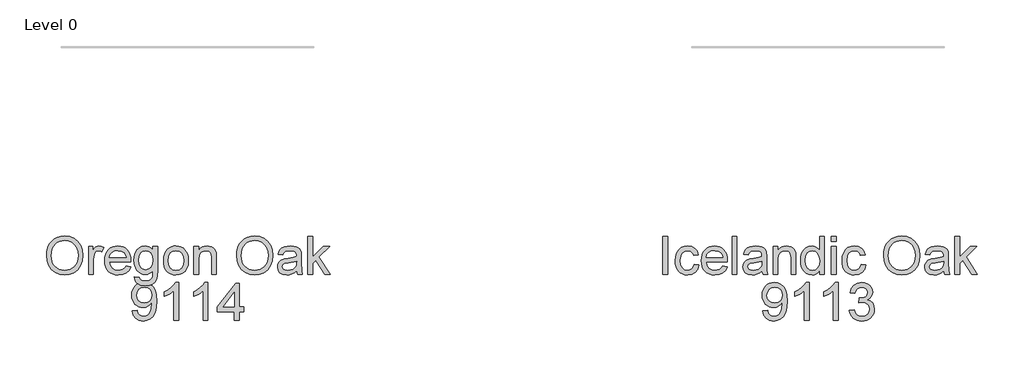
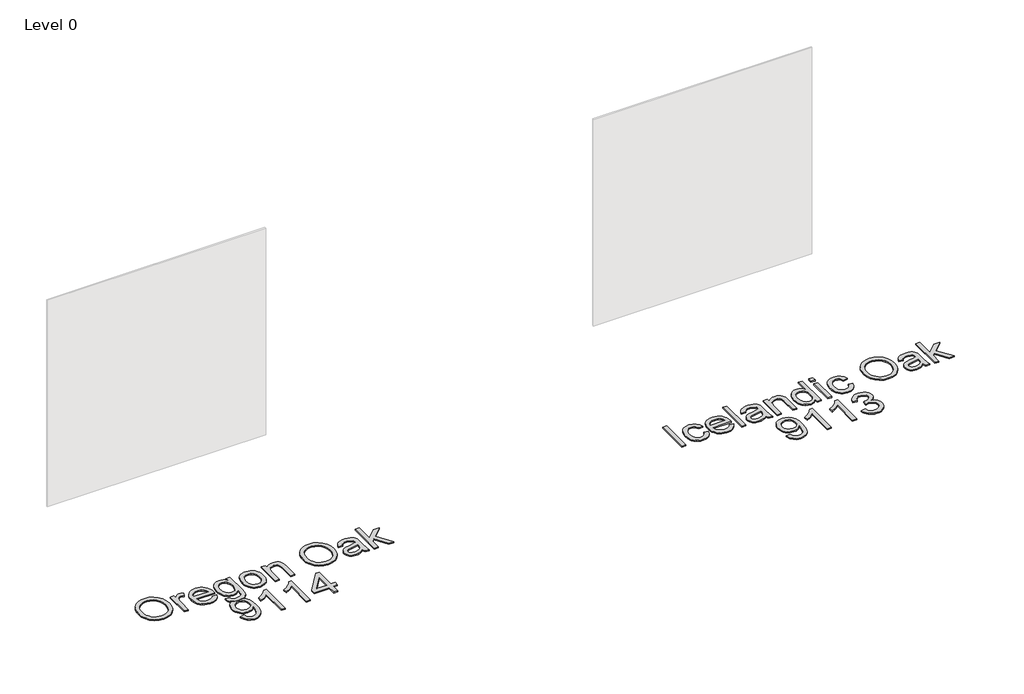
# One storey, part 6 of 10: 2 proxies.
"""IFC4 building model written with IfcOpenShell, lengths in millimetres."""

from ifc_helpers import new_model, si_unit, origin, origin_with_axes, place, context, project, spatial, polyline, outline, extrude, element, save

model = new_model("IFC4")

# Units and contexts
model_context = context("Model", 3, world=origin())
ifc_project = project(units=[si_unit("LENGTHUNIT", "METRE", prefix="MILLI")], contexts=[model_context])

# Site, building, storey
site = spatial("IfcSite", under=ifc_project)
building = spatial("IfcBuilding", under=site)
storey = spatial("IfcBuildingStorey", under=building, Name="Level 0", Elevation=0.0)

# Proxies
placement = place(None, origin())
element("IfcBuildingElementProxy", 1, Name="300mm Arial", ObjectType="300mm Arial", at=placement, inside=storey, context=model_context, shape_type="SweptSolid", body=[
    extrude(outline(polyline([(-569.0193216, -16856.1491543), (-566.508527, -16820.8002931), (-558.9761432, -16789.5073309), (-546.4221701, -16762.2702677), (-528.8466078, -16739.0891034), (-507.3025184, -16720.5800406), (-482.8429643, -16707.3592814), (-455.4679453, -16699.4268258), (-425.1774615, -16696.782674), (-385.6485411, -16701.7490809), (-350.2031109, -16716.6483017), (-320.7725513, -16740.4318727), (-299.2882428, -16772.0513302), (-286.1548556, -16809.9799639), (-281.7770598, -16852.6910636), (-286.3847818, -16895.9723803), (-300.2079478, -16934.4344429), (-322.4832026, -16966.1090827), (-352.4471911, -16989.028131), (-387.5891187, -17002.9340704), (-425.3981907, -17007.5693835), (-465.5341164, -17002.4466267), (-501.1818817, -16987.0783564), (-530.5388649, -16962.853327), (-551.8024443, -16931.1602931), (-564.7151023, -16894.6939903), (-569.0193216, -16856.1491543)]), holes=[polyline([(-531.3482053, -16856.5170363), (-529.4651094, -16881.4916252), (-523.8158215, -16903.661114), (-514.4003417, -16923.0255025), (-501.2186699, -16939.5847908), (-485.1951098, -16952.8469367), (-467.2539647, -16962.3198981), (-447.3952348, -16968.0036749), (-425.6189199, -16969.8982672), (-403.4701246, -16967.9852808), (-383.3768698, -16962.2463217), (-365.3391558, -16952.6813898), (-349.3569823, -16939.2904852), (-336.2718796, -16922.381709), (-326.9253777, -16902.2631624), (-321.3174765, -16878.9348454), (-319.4481761, -16852.396758), (-322.6487495, -16819.0482551), (-332.2504695, -16790.2247008), (-348.005016, -16766.6526619), (-369.6640685, -16749.0587055), (-395.7928872, -16738.1050191), (-424.9567323, -16734.4537903), (-445.9765898, -16736.2127261), (-465.4789341, -16741.4895335), (-483.4637651, -16750.2842124), (-499.931083, -16762.5967629), (-513.676074, -16779.0203948), (-523.4939247, -16800.1483176), (-529.3846352, -16825.9805314), (-531.3482053, -16856.5170363)])]), origin_with_axes(), (0.0, 0.0, 1.0), 10.0),
    extrude(outline(polyline([(-234.6881644, -17002.860494), (-234.6881644, -16781.5426857), (-201.7259377, -16781.5426857), (-201.7259377, -16814.2841833), (-189.5490436, -16795.3014723), (-178.3286428, -16784.1178596), (-167.0714537, -16778.654812), (-154.7841951, -16776.8337961), (-136.0222133, -16779.7400639), (-116.965926, -16788.4588672), (-129.5474902, -16822.2304343), (-142.791242, -16816.4362929), (-156.0349939, -16814.5049125), (-167.2829859, -16816.3627165), (-177.3353614, -16821.9361288), (-185.4563564, -16830.8020848), (-190.910207, -16842.5375205), (-195.4903378, -16863.5803706), (-197.0170481, -16886.5362071), (-197.0170481, -17002.860494), (-234.6881644, -17002.860494)])), origin_with_axes(), (0.0, 0.0, 1.0), 10.0),
    extrude(outline(polyline([(61.5304181, -16936.9360404), (98.4657704, -16941.64493), (85.1576392, -16969.4752029), (63.9216511, -16990.2789297), (35.2360525, -17003.2467701), (-0.4209099, -17007.5693835), (-23.7952122, -17005.7046817), (-44.6219316, -17000.1105761), (-62.9010683, -16990.7870668), (-78.6326221, -16977.7341537), (-91.2831642, -16961.3151204), (-100.3192657, -16941.8932503), (-105.7409266, -16919.4685435), (-107.5481469, -16894.0409998), (-105.7225325, -16867.7512327), (-100.2456893, -16844.5792656), (-91.1176173, -16824.5250983), (-78.3383165, -16807.5887309), (-62.6481494, -16794.133447), (-44.7874785, -16784.5225298), (-24.7563039, -16778.7559796), (-2.5546255, -16776.8337961), (18.9319823, -16778.751381), (38.3630494, -16784.5041357), (55.7385759, -16794.0920602), (71.0585618, -16807.5151545), (83.5642503, -16824.4147337), (92.496885, -16844.4321128), (97.8564658, -16867.5672917), (99.6429928, -16893.8202706), (99.4222636, -16903.9738137), (-69.8770306, -16903.9738137), (-63.3563222, -16932.1719686), (-48.2087811, -16952.902119), (-26.3473935, -16965.6492302), (0.3148541, -16969.8982672), (20.3644228, -16967.9300985), (37.2502064, -16962.0255925), (50.9722048, -16951.8168672), (61.5304181, -16936.9360404)]), holes=[polyline([(-69.8770306, -16866.3026974), (61.9718765, -16866.3026974), (56.8767108, -16846.4002814), (46.8887147, -16832.1632482), (24.9261596, -16818.9194964), (-2.7017783, -16814.5049125), (-28.094833, -16818.0273826), (-49.0916979, -16828.5947929), (-63.687416, -16845.0667092), (-69.8770306, -16866.3026974)])]), origin_with_axes(), (0.0, 0.0, 1.0), 10.0),
    extrude(outline(polyline([(127.89633, -17021.6960521), (165.5674463, -17026.4049417), (169.7245129, -17038.1771655), (177.7811286, -17046.2705694), (193.6184485, -17052.5613515), (214.3485989, -17054.6582789), (236.4583068, -17052.28544), (252.902632, -17045.1669234), (264.3069738, -17033.7625816), (271.2967317, -17018.532267), (273.8719057, -16974.6071568), (261.3363267, -16986.9679918), (247.3476139, -16995.7971597), (231.9057671, -17001.0946604), (215.0107865, -17002.860494), (194.3565117, -17000.8049533), (176.1716448, -16994.6383314), (160.4561859, -16984.3606281), (147.2101348, -16969.9718436), (136.700206, -16952.708981), (129.1931141, -16933.8090435), (124.6888589, -16913.2720311), (123.1874405, -16891.0979438), (125.8821761, -16860.6832999), (133.9663829, -16832.7150712), (147.1549525, -16809.0142737), (165.1627761, -16791.4019232), (187.3736516, -16780.4758279), (213.1713765, -16776.8337961), (230.7883255, -16778.8939353), (246.7773968, -16785.0743528), (261.1385901, -16795.3750487), (273.8719057, -16809.7960229), (273.8719057, -16781.5426857), (311.543022, -16781.5426857), (311.543022, -16972.620594), (308.967848, -17016.7388422), (301.2423261, -17045.7923228), (287.934195, -17065.0601423), (268.6111932, -17079.8214074), (243.696385, -17089.2023982), (213.6128349, -17092.3293952), (178.5628778, -17087.9240083), (150.9625311, -17074.7078476), (140.5675655, -17064.7865301), (133.2582101, -17052.644125), (129.0344649, -17038.2806323), (127.89633, -17021.6960521)]), holes=[polyline([(160.8585568, -16888.5227699), (164.8776676, -16923.0760863), (176.935, -16946.8320661), (195.0623853, -16960.6000498), (217.2916548, -16965.1893777), (239.3553775, -16960.6276409), (257.5747333, -16946.9424307), (269.7976126, -16923.4899535), (273.8719057, -16889.6264159), (269.678051, -16856.9676917), (257.0964867, -16833.4508352), (238.6104165, -16819.2413931), (216.7030437, -16814.5049125), (195.191144, -16819.1678167), (177.1557292, -16833.1565296), (164.9328499, -16856.3238983), (160.8585568, -16888.5227699)])]), origin_with_axes(), (0.0, 0.0, 1.0), 10.0),
    extrude(outline(polyline([(358.6319174, -16892.2015898), (360.6690639, -16863.5389839), (366.7805036, -16838.8403064), (376.9662363, -16818.1055575), (391.2262622, -16801.334737), (405.582857, -16790.6155754), (421.429374, -16782.9590314), (438.765813, -16778.3651049), (457.5921741, -16776.8337961), (478.3752076, -16778.698498), (497.1670797, -16784.2926036), (513.9677906, -16793.6161129), (528.7773402, -16806.669026), (540.864563, -16823.0098843), (549.4982935, -16842.1972296), (554.6785319, -16864.2310619), (556.405278, -16889.1113811), (553.3518574, -16927.1687735), (544.1915958, -16956.1394806), (529.1912074, -16977.8353213), (508.6174068, -16994.0681143), (484.1808453, -17004.1940662), (457.5921741, -17007.5693835), (436.505638, -17005.7115794), (417.5390219, -17000.1381672), (400.6923258, -16990.8491468), (385.9655496, -16977.8445183), (374.0070855, -16961.3450108), (365.4653255, -16941.5713536), (360.3402694, -16918.5235466), (358.6319174, -16892.2015898)]), holes=[polyline([(396.3030337, -16892.1280134), (400.6624353, -16926.2214773), (413.7406403, -16950.5108861), (433.422327, -16965.0514219), (457.5921741, -16969.8982672), (481.6516566, -16965.0238308), (501.2965551, -16950.4005215), (514.3747601, -16925.789216), (518.7341617, -16890.950791), (514.3471689, -16857.8506085), (501.1861905, -16833.8922936), (481.5137008, -16819.3517577), (457.5921741, -16814.5049125), (433.422327, -16819.3333636), (413.7406403, -16833.8187172), (400.6624353, -16858.0529436), (396.3030337, -16892.1280134)])]), origin_with_axes(), (0.0, 0.0, 1.0), 10.0),
    extrude(outline(polyline([(598.7852838, -17002.860494), (598.7852838, -16781.5426857), (636.4564002, -16781.5426857), (636.4564002, -16812.4447733), (649.5438021, -16796.8649708), (665.2615604, -16785.7365404), (683.6096749, -16779.0594822), (704.5881457, -16776.8337961), (723.1569894, -16778.6272209), (740.1623346, -16784.0074951), (754.3441855, -16792.303234), (764.4425463, -16802.8430532), (775.7365235, -16830.5445674), (777.7230863, -16866.964885), (777.7230863, -17002.860494), (740.05197, -17002.860494), (740.05197, -16872.0416565), (735.7109624, -16838.7115477), (729.7052889, -16828.7879309), (720.3702833, -16821.0900002), (708.4049214, -16816.1511844), (694.508179, -16814.5049125), (672.4444563, -16818.2021265), (653.6364893, -16829.2937687), (646.1202003, -16838.3482643), (640.7514224, -16850.7228949), (636.4564002, -16885.4325611), (636.4564002, -17002.860494), (598.7852838, -17002.860494)])), origin_with_axes(), (0.0, 0.0, 1.0), 10.0),
    extrude(outline(polyline([(937.8253306, -16856.1491543), (940.3361252, -16820.8002931), (947.8685091, -16789.5073309), (960.4224822, -16762.2702677), (977.9980445, -16739.0891034), (999.5421338, -16720.5800406), (1024.001688, -16707.3592814), (1051.3767069, -16699.4268258), (1081.6671907, -16696.782674), (1121.1961111, -16701.7490809), (1156.6415413, -16716.6483017), (1186.0721009, -16740.4318727), (1207.5564095, -16772.0513302), (1220.6897967, -16809.9799639), (1225.0675924, -16852.6910636), (1220.4598704, -16895.9723803), (1206.6367045, -16934.4344429), (1184.3614497, -16966.1090827), (1154.3974612, -16989.028131), (1119.2555336, -17002.9340704), (1081.4464615, -17007.5693835), (1041.3105358, -17002.4466267), (1005.6627705, -16987.0783564), (976.3057873, -16962.853327), (955.042208, -16931.1602931), (942.1295499, -16894.6939903), (937.8253306, -16856.1491543)]), holes=[polyline([(975.4964469, -16856.5170363), (977.3795429, -16881.4916252), (983.0288308, -16903.661114), (992.4443106, -16923.0255025), (1005.6259823, -16939.5847908), (1021.6495425, -16952.8469367), (1039.5906875, -16962.3198981), (1059.4494175, -16968.0036749), (1081.2257323, -16969.8982672), (1103.3745277, -16967.9852808), (1123.4677824, -16962.2463217), (1141.5054965, -16952.6813898), (1157.4876699, -16939.2904852), (1170.5727726, -16922.381709), (1179.9192746, -16902.2631624), (1185.5271757, -16878.9348454), (1187.3964761, -16852.396758), (1184.1959028, -16819.0482551), (1174.5941827, -16790.2247008), (1158.8396363, -16766.6526619), (1137.1805838, -16749.0587055), (1111.0517651, -16738.1050191), (1081.8879199, -16734.4537903), (1060.8680624, -16736.2127261), (1041.3657181, -16741.4895335), (1023.3808871, -16750.2842124), (1006.9135693, -16762.5967629), (993.1685782, -16779.0203948), (983.3507275, -16800.1483176), (977.4600171, -16825.9805314), (975.4964469, -16856.5170363)])]), origin_with_axes(), (0.0, 0.0, 1.0), 10.0),
    extrude(outline(polyline([(1413.423174, -16974.6071568), (1395.4245473, -16990.0398064), (1376.8924918, -17000.1381672), (1357.4039431, -17005.7115794), (1336.535837, -17007.5693835), (1305.0543352, -17003.0996173), (1281.8317843, -16989.6903186), (1267.5119776, -16969.3280501), (1262.7387087, -16943.9993748), (1264.5413305, -16928.3827841), (1269.9491958, -16914.2009331), (1278.2909201, -16902.0608273), (1288.8951186, -16892.5694718), (1315.2722577, -16880.2086368), (1347.8666024, -16874.5432541), (1386.3838473, -16868.5835657), (1413.2024448, -16861.5938078), (1413.423174, -16853.2060983), (1410.8296059, -16836.3938912), (1403.0489017, -16825.3942195), (1385.6480833, -16817.2272392), (1361.4046598, -16814.5049125), (1338.9638581, -16816.3167313), (1323.2920851, -16821.7521878), (1312.6051132, -16831.8045633), (1305.1187146, -16847.4671392), (1267.4475983, -16842.7582497), (1273.9867007, -16822.156858), (1283.7447707, -16805.9700502), (1297.632316, -16793.590821), (1316.5598446, -16784.4121652), (1339.7088192, -16778.7283884), (1366.2607022, -16776.8337961), (1391.7273333, -16778.5076592), (1411.9148578, -16783.5292485), (1427.1359753, -16791.0800264), (1437.7033856, -16800.3414556), (1444.7115377, -16811.7917827), (1449.2548803, -16825.9092543), (1451.0942903, -16858.8714811), (1451.0942903, -16905.7396473), (1453.0072766, -16971.1858542), (1460.5120693, -17002.860494), (1422.840953, -17002.860494), (1413.423174, -16974.6071568)]), holes=[polyline([(1413.423174, -16899.2649241), (1352.6490684, -16910.8164188), (1320.2386646, -16916.9232599), (1305.560173, -16926.8560738), (1300.409825, -16941.3506244), (1303.2149253, -16952.5526311), (1311.6302259, -16961.7312869), (1325.471786, -16967.8565221), (1344.5556645, -16969.8982672), (1364.7891742, -16967.64499), (1382.6682392, -16960.8851583), (1397.1627898, -16950.9247533), (1407.2427564, -16939.069756), (1411.7125227, -16926.8560738), (1413.2024448, -16909.933502), (1413.423174, -16899.2649241)])]), origin_with_axes(), (0.0, 0.0, 1.0), 10.0),
    extrude(outline(polyline([(1502.8920752, -17002.860494), (1502.8920752, -16701.4915635), (1540.5631915, -16701.4915635), (1540.5631915, -16863.4332178), (1625.0288976, -16781.5426857), (1677.1209881, -16781.5426857), (1591.6252124, -16864.4632874), (1681.8298776, -17002.860494), (1637.831191, -17002.860494), (1564.622674, -16890.6564855), (1540.5631915, -16913.9802039), (1540.5631915, -17002.860494), (1502.8920752, -17002.860494)])), origin_with_axes(), (0.0, 0.0, 1.0), 10.0),
    extrude(outline(polyline([(111.4152166, -17293.4427149), (149.0863329, -17288.7338254), (155.5242679, -17310.1169663), (166.0089047, -17324.6758963), (180.2827261, -17333.0360146), (198.0882147, -17335.8227207), (214.0634903, -17334.029296), (228.5856321, -17328.6490218), (240.6521615, -17320.2705094), (249.2606002, -17309.4823699), (261.5846471, -17276.7408723), (267.0293006, -17233.0364913), (266.8085714, -17225.6788514), (253.7579576, -17241.6081418), (236.679036, -17254.2264942), (216.8042112, -17262.4486568), (195.3658879, -17265.1893777), (177.4707281, -17263.5155146), (161.0149066, -17258.4939254), (145.9984234, -17250.12461), (132.4212786, -17238.4075684), (121.1709873, -17223.9544045), (113.135065, -17207.3767221), (108.3135116, -17188.6745212), (106.7063271, -17167.8478018), (108.3916865, -17146.326705), (113.4477647, -17127.0129003), (121.8745616, -17109.9063875), (133.6720773, -17095.0071667), (148.0079788, -17082.9360387), (164.0499331, -17074.3138045), (181.7979401, -17069.1404639), (201.2519999, -17067.4160171), (229.3489872, -17071.3523544), (254.925983, -17083.1613665), (276.318321, -17102.254442), (291.8613353, -17128.0429699), (301.3250996, -17163.6907352), (304.4796877, -17212.3615232), (301.3342966, -17263.96617), (291.8981235, -17303.8537754), (276.2539416, -17333.8269609), (254.4845246, -17355.6883485), (227.5279714, -17369.0424649), (196.3223811, -17373.4938371), (164.1143124, -17368.2423216), (138.4177551, -17352.4877751), (120.4467196, -17327.2234791), (111.4152166, -17293.4427149)]), holes=[polyline([(266.8085714, -17166.964885), (262.7434754, -17141.4338745), (250.5481872, -17121.788976), (231.6206586, -17109.262594), (207.358841, -17105.0871334), (182.1957125, -17109.5844908), (162.0357792, -17123.0765629), (148.7920273, -17143.7239399), (144.3774434, -17169.6872117), (148.552904, -17192.964945), (161.079286, -17211.4418182), (180.7425786, -17223.4991506), (206.3287714, -17227.5182614), (230.3974509, -17223.4991506), (249.775635, -17211.4418182), (262.5503373, -17192.2843633), (266.8085714, -17166.964885)])]), origin_with_axes(), (0.0, 0.0, 1.0), 10.0),
    extrude(outline(polyline([(478.7086006, -17368.7849475), (441.0374843, -17368.7849475), (441.0374843, -17133.9290818), (405.3529308, -17159.3497277), (365.6952517, -17178.3692268), (365.6952517, -17142.7582497), (395.2821612, -17126.6634124), (420.9143392, -17107.5151545), (441.1202578, -17087.1528861), (454.4283889, -17067.4160171), (478.7086006, -17067.4160171), (478.7086006, -17368.7849475)])), origin_with_axes(), (0.0, 0.0, 1.0), 10.0),
    extrude(outline(polyline([(709.444188, -17368.7849475), (671.7730717, -17368.7849475), (671.7730717, -17133.9290818), (636.0885182, -17159.3497277), (596.4308391, -17178.3692268), (596.4308391, -17142.7582497), (626.0177485, -17126.6634124), (651.6499266, -17107.5151545), (671.8558451, -17087.1528861), (685.1639763, -17067.4160171), (709.444188, -17067.4160171), (709.444188, -17368.7849475)])), origin_with_axes(), (0.0, 0.0, 1.0), 10.0),
    extrude(outline(polyline([(921.3442172, -17368.7849475), (921.3442172, -17298.1516044), (784.7864206, -17298.1516044), (784.7864206, -17260.4804881), (930.7619963, -17072.1249066), (959.0153335, -17072.1249066), (959.0153335, -17260.4804881), (996.6864498, -17260.4804881), (996.6864498, -17298.1516044), (959.0153335, -17298.1516044), (959.0153335, -17368.7849475), (921.3442172, -17368.7849475)]), holes=[polyline([(921.3442172, -17260.4804881), (921.3442172, -17144.0826249), (831.139552, -17260.4804881), (921.3442172, -17260.4804881)])]), origin_with_axes(), (0.0, 0.0, 1.0), 10.0),
])
element("IfcBuildingElementProxy", 2, Name="300mm Arial", ObjectType="300mm Arial", at=placement, inside=storey, context=model_context, shape_type="SweptSolid", body=[
    extrude(outline(polyline([(4317.9673294, -17002.860494), (4317.9673294, -16701.4915635), (4355.6384457, -16701.4915635), (4355.6384457, -17002.860494), (4317.9673294, -17002.860494)])), origin_with_axes(), (0.0, 0.0, 1.0), 10.0),
    extrude(outline(polyline([(4567.538475, -16922.8093718), (4605.2095913, -16927.5182614), (4594.7065603, -16961.0231141), (4574.9696913, -16986.3425924), (4547.8567882, -17002.2626857), (4515.2256553, -17007.5693835), (4494.0977324, -17005.7184772), (4475.1541089, -17000.1657584), (4458.3947848, -16990.9112269), (4443.81976, -16977.9548829), (4432.0222443, -16961.5404481), (4423.5954473, -16941.9116444), (4418.5393691, -16919.0684718), (4416.8540097, -16893.0109302), (4419.7326864, -16859.4876834), (4428.3687162, -16830.4342028), (4442.900055, -16806.9725286), (4463.4646585, -16790.2247008), (4488.066767, -16780.1815223), (4514.7106205, -16776.8337961), (4546.5416101, -16781.4323211), (4571.9898471, -16795.2278959), (4590.2459911, -16817.4847566), (4600.5007017, -16847.4671392), (4562.8295854, -16852.1760288), (4555.9961774, -16835.7409006), (4545.3551907, -16823.9594797), (4531.4952365, -16816.8685543), (4515.0049261, -16814.5049125), (4490.660335, -16819.1586197), (4471.3373332, -16833.1197414), (4458.7281778, -16857.1424357), (4454.525126, -16891.9808606), (4458.6362073, -16927.2883351), (4470.9694512, -16951.3938029), (4489.9429651, -16965.2721511), (4513.9748565, -16969.8982672), (4533.4817993, -16967.0103936), (4549.475469, -16958.3467726), (4561.1097371, -16943.6866751), (4567.538475, -16922.8093718)])), origin_with_axes(), (0.0, 0.0, 1.0), 10.0),
    extrude(outline(polyline([(4793.1237144, -16936.9360404), (4830.0590667, -16941.64493), (4816.7509355, -16969.4752029), (4795.5149474, -16990.2789297), (4766.8293488, -17003.2467701), (4731.1723864, -17007.5693835), (4707.7980842, -17005.7046817), (4686.9713647, -17000.1105761), (4668.6922281, -16990.7870668), (4652.9606742, -16977.7341537), (4640.3101321, -16961.3151204), (4631.2740306, -16941.8932503), (4625.8523697, -16919.4685435), (4624.0451494, -16894.0409998), (4625.8707638, -16867.7512327), (4631.347607, -16844.5792656), (4640.475679, -16824.5250983), (4653.2549798, -16807.5887309), (4668.9451469, -16794.133447), (4686.8058178, -16784.5225298), (4706.8369924, -16778.7559796), (4729.0386708, -16776.8337961), (4750.5252786, -16778.751381), (4769.9563458, -16784.5041357), (4787.3318722, -16794.0920602), (4802.6518581, -16807.5151545), (4815.1575467, -16824.4147337), (4824.0901814, -16844.4321128), (4829.4497622, -16867.5672917), (4831.2362891, -16893.8202706), (4831.0155599, -16903.9738137), (4661.7162657, -16903.9738137), (4668.2369741, -16932.1719686), (4683.3845152, -16952.902119), (4705.2459028, -16965.6492302), (4731.9081504, -16969.8982672), (4751.9577191, -16967.9300985), (4768.8435027, -16962.0255925), (4782.5655011, -16951.8168672), (4793.1237144, -16936.9360404)]), holes=[polyline([(4661.7162657, -16866.3026974), (4793.5651728, -16866.3026974), (4788.4700072, -16846.4002814), (4778.482011, -16832.1632482), (4756.5194559, -16818.9194964), (4728.891518, -16814.5049125), (4703.4984633, -16818.0273826), (4682.5015985, -16828.5947929), (4667.9058803, -16845.0667092), (4661.7162657, -16866.3026974)])]), origin_with_axes(), (0.0, 0.0, 1.0), 10.0),
    extrude(outline(polyline([(4868.9074054, -17002.860494), (4868.9074054, -16701.4915635), (4906.5785217, -16701.4915635), (4906.5785217, -17002.860494), (4868.9074054, -17002.860494)])), origin_with_axes(), (0.0, 0.0, 1.0), 10.0),
    extrude(outline(polyline([(5104.3518823, -16974.6071568), (5086.3532557, -16990.0398064), (5067.8212002, -17000.1381672), (5048.3326515, -17005.7115794), (5027.4645453, -17007.5693835), (4995.9830436, -17003.0996173), (4972.7604927, -16989.6903186), (4958.440686, -16969.3280501), (4953.6674171, -16943.9993748), (4955.4700389, -16928.3827841), (4960.8779042, -16914.2009331), (4969.2196284, -16902.0608273), (4979.823827, -16892.5694718), (5006.200966, -16880.2086368), (5038.7953108, -16874.5432541), (5077.3125557, -16868.5835657), (5104.1311531, -16861.5938078), (5104.3518823, -16853.2060983), (5101.7583143, -16836.3938912), (5093.9776101, -16825.3942195), (5076.5767917, -16817.2272392), (5052.3333682, -16814.5049125), (5029.8925665, -16816.3167313), (5014.2207935, -16821.7521878), (5003.5338215, -16831.8045633), (4996.0474229, -16847.4671392), (4958.3763066, -16842.7582497), (4964.9154091, -16822.156858), (4974.673479, -16805.9700502), (4988.5610243, -16793.590821), (5007.488553, -16784.4121652), (5030.6375275, -16778.7283884), (5057.1894105, -16776.8337961), (5082.6560417, -16778.5076592), (5102.8435661, -16783.5292485), (5118.0646837, -16791.0800264), (5128.632094, -16800.3414556), (5135.640246, -16811.7917827), (5140.1835887, -16825.9092543), (5142.0229986, -16858.8714811), (5142.0229986, -16905.7396473), (5143.935985, -16971.1858542), (5151.4407777, -17002.860494), (5113.7696614, -17002.860494), (5104.3518823, -16974.6071568)]), holes=[polyline([(5104.3518823, -16899.2649241), (5043.5777767, -16910.8164188), (5011.1673729, -16916.9232599), (4996.4888813, -16926.8560738), (4991.3385334, -16941.3506244), (4994.1436336, -16952.5526311), (5002.5589343, -16961.7312869), (5016.4004943, -16967.8565221), (5035.4843728, -16969.8982672), (5055.7178826, -16967.64499), (5073.5969475, -16960.8851583), (5088.0914981, -16950.9247533), (5098.1714648, -16939.069756), (5102.641231, -16926.8560738), (5104.1311531, -16909.933502), (5104.3518823, -16899.2649241)])]), origin_with_axes(), (0.0, 0.0, 1.0), 10.0),
    extrude(outline(polyline([(5193.8207836, -17002.860494), (5193.8207836, -16781.5426857), (5231.4918999, -16781.5426857), (5231.4918999, -16812.4447733), (5244.5793018, -16796.8649708), (5260.2970601, -16785.7365404), (5278.6451746, -16779.0594822), (5299.6236454, -16776.8337961), (5318.1924891, -16778.6272209), (5335.1978343, -16784.0074951), (5349.3796852, -16792.303234), (5359.478046, -16802.8430532), (5370.7720232, -16830.5445674), (5372.758586, -16866.964885), (5372.758586, -17002.860494), (5335.0874697, -17002.860494), (5335.0874697, -16872.0416565), (5330.7464622, -16838.7115477), (5324.7407886, -16828.7879309), (5315.405783, -16821.0900002), (5303.4404211, -16816.1511844), (5289.5436787, -16814.5049125), (5267.479956, -16818.2021265), (5248.671989, -16829.2937687), (5241.1557, -16838.3482643), (5235.7869222, -16850.7228949), (5231.4918999, -16885.4325611), (5231.4918999, -17002.860494), (5193.8207836, -17002.860494)])), origin_with_axes(), (0.0, 0.0, 1.0), 10.0),
    extrude(outline(polyline([(5561.1141675, -17002.860494), (5561.1141675, -16967.3230932), (5549.8431829, -16984.9308452), (5536.1901624, -16997.507811), (5520.1551059, -17005.0539904), (5501.7380135, -17007.5693835), (5477.3842254, -17003.9273518), (5455.0905765, -16993.0012565), (5436.2182302, -16975.5544529), (5422.1283498, -16952.350296), (5413.3543642, -16924.3268851), (5410.4297023, -16892.422319), (5413.1244379, -16860.9132261), (5421.2086448, -16832.4575538), (5434.6731258, -16808.6739828), (5453.5086839, -16791.181194), (5476.2897765, -16780.4206456), (5501.5908607, -16776.8337961), (5520.0217487, -16779.3997731), (5536.3189211, -16787.0977038), (5550.13289, -16798.8975188), (5561.1141675, -16813.7691485), (5561.1141675, -16701.4915635), (5598.7852838, -16701.4915635), (5598.7852838, -17002.860494), (5561.1141675, -17002.860494)]), holes=[polyline([(5448.1008186, -16892.2751662), (5452.3498557, -16926.350236), (5465.0969668, -16950.5844625), (5483.6198253, -16965.069816), (5505.1961043, -16969.8982672), (5526.7631862, -16965.2905452), (5544.8169952, -16951.4673793), (5557.0398744, -16928.1712519), (5561.1141675, -16895.1446458), (5556.966298, -16859.037028), (5544.5226896, -16834.0026582), (5526.0090281, -16819.3793489), (5503.6509999, -16814.5049125), (5481.8539917, -16819.1862108), (5463.9933208, -16833.230106), (5452.0739442, -16857.3539678), (5448.1008186, -16892.2751662)])]), origin_with_axes(), (0.0, 0.0, 1.0), 10.0),
    extrude(outline(polyline([(5655.2919583, -16739.1626798), (5655.2919583, -16701.4915635), (5692.9630746, -16701.4915635), (5692.9630746, -16739.1626798), (5655.2919583, -16739.1626798)])), origin_with_axes(), (0.0, 0.0, 1.0), 10.0),
    extrude(outline(polyline([(5655.2919583, -17002.860494), (5655.2919583, -16781.5426857), (5692.9630746, -16781.5426857), (5692.9630746, -17002.860494), (5655.2919583, -17002.860494)])), origin_with_axes(), (0.0, 0.0, 1.0), 10.0),
    extrude(outline(polyline([(5890.7364352, -16922.8093718), (5928.4075515, -16927.5182614), (5917.9045206, -16961.0231141), (5898.1676515, -16986.3425924), (5871.0547485, -17002.2626857), (5838.4236155, -17007.5693835), (5817.2956927, -17005.7184772), (5798.3520692, -17000.1657584), (5781.592745, -16990.9112269), (5767.0177202, -16977.9548829), (5755.2202045, -16961.5404481), (5746.7934076, -16941.9116444), (5741.7373294, -16919.0684718), (5740.05197, -16893.0109302), (5742.9306466, -16859.4876834), (5751.5666764, -16830.4342028), (5766.0980153, -16806.9725286), (5786.6626188, -16790.2247008), (5811.2647272, -16780.1815223), (5837.9085807, -16776.8337961), (5869.7395703, -16781.4323211), (5895.1878074, -16795.2278959), (5913.4439514, -16817.4847566), (5923.698662, -16847.4671392), (5886.0275457, -16852.1760288), (5879.1941376, -16835.7409006), (5868.5531509, -16823.9594797), (5854.6931967, -16816.8685543), (5838.2028863, -16814.5049125), (5813.8582953, -16819.1586197), (5794.5352935, -16833.1197414), (5781.9261381, -16857.1424357), (5777.7230863, -16891.9808606), (5781.8341676, -16927.2883351), (5794.1674115, -16951.3938029), (5813.1409254, -16965.2721511), (5837.1728167, -16969.8982672), (5856.6797595, -16967.0103936), (5872.6734293, -16958.3467726), (5884.3076974, -16943.6866751), (5890.7364352, -16922.8093718)])), origin_with_axes(), (0.0, 0.0, 1.0), 10.0),
    extrude(outline(polyline([(6069.6742377, -16856.1491543), (6072.1850323, -16820.8002931), (6079.7174161, -16789.5073309), (6092.2713892, -16762.2702677), (6109.8469515, -16739.0891034), (6131.3910409, -16720.5800406), (6155.850595, -16707.3592814), (6183.225614, -16699.4268258), (6213.5160978, -16696.782674), (6253.0450182, -16701.7490809), (6288.4904484, -16716.6483017), (6317.921008, -16740.4318727), (6339.4053165, -16772.0513302), (6352.5387038, -16809.9799639), (6356.9164995, -16852.6910636), (6352.3087775, -16895.9723803), (6338.4856115, -16934.4344429), (6316.2103567, -16966.1090827), (6286.2463682, -16989.028131), (6251.1044406, -17002.9340704), (6213.2953686, -17007.5693835), (6173.1594429, -17002.4466267), (6137.5116776, -16987.0783564), (6108.1546944, -16962.853327), (6086.891115, -16931.1602931), (6073.978457, -16894.6939903), (6069.6742377, -16856.1491543)]), holes=[polyline([(6107.345354, -16856.5170363), (6109.2284499, -16881.4916252), (6114.8777378, -16903.661114), (6124.2932176, -16923.0255025), (6137.4748894, -16939.5847908), (6153.4984495, -16952.8469367), (6171.4395946, -16962.3198981), (6191.2983245, -16968.0036749), (6213.0746394, -16969.8982672), (6235.2234348, -16967.9852808), (6255.3166895, -16962.2463217), (6273.3544036, -16952.6813898), (6289.336577, -16939.2904852), (6302.4216797, -16922.381709), (6311.7681816, -16902.2631624), (6317.3760828, -16878.9348454), (6319.2453832, -16852.396758), (6316.0448098, -16819.0482551), (6306.4430898, -16790.2247008), (6290.6885433, -16766.6526619), (6269.0294909, -16749.0587055), (6242.9006721, -16738.1050191), (6213.736827, -16734.4537903), (6192.7169695, -16736.2127261), (6173.2146252, -16741.4895335), (6155.2297942, -16750.2842124), (6138.7624764, -16762.5967629), (6125.0174853, -16779.0203948), (6115.1996346, -16800.1483176), (6109.3089241, -16825.9805314), (6107.345354, -16856.5170363)])]), origin_with_axes(), (0.0, 0.0, 1.0), 10.0),
    extrude(outline(polyline([(6545.272081, -16974.6071568), (6527.2734544, -16990.0398064), (6508.7413989, -17000.1381672), (6489.2528502, -17005.7115794), (6468.384744, -17007.5693835), (6436.9032423, -17003.0996173), (6413.6806914, -16989.6903186), (6399.3608847, -16969.3280501), (6394.5876158, -16943.9993748), (6396.3902376, -16928.3827841), (6401.7981029, -16914.2009331), (6410.1398272, -16902.0608273), (6420.7440257, -16892.5694718), (6447.1211647, -16880.2086368), (6479.7155095, -16874.5432541), (6518.2327544, -16868.5835657), (6545.0513518, -16861.5938078), (6545.272081, -16853.2060983), (6542.678513, -16836.3938912), (6534.8978088, -16825.3942195), (6517.4969904, -16817.2272392), (6493.2535669, -16814.5049125), (6470.8127652, -16816.3167313), (6455.1409922, -16821.7521878), (6444.4540203, -16831.8045633), (6436.9676217, -16847.4671392), (6399.2965053, -16842.7582497), (6405.8356078, -16822.156858), (6415.5936777, -16805.9700502), (6429.4812231, -16793.590821), (6448.4087517, -16784.4121652), (6471.5577263, -16778.7283884), (6498.1096093, -16776.8337961), (6523.5762404, -16778.5076592), (6543.7637649, -16783.5292485), (6558.9848824, -16791.0800264), (6569.5522927, -16800.3414556), (6576.5604447, -16811.7917827), (6581.1037874, -16825.9092543), (6582.9431973, -16858.8714811), (6582.9431973, -16905.7396473), (6584.8561837, -16971.1858542), (6592.3609764, -17002.860494), (6554.6898601, -17002.860494), (6545.272081, -16974.6071568)]), holes=[polyline([(6545.272081, -16899.2649241), (6484.4979754, -16910.8164188), (6452.0875717, -16916.9232599), (6437.40908, -16926.8560738), (6432.2587321, -16941.3506244), (6435.0638323, -16952.5526311), (6443.479133, -16961.7312869), (6457.320693, -16967.8565221), (6476.4045715, -16969.8982672), (6496.6380813, -16967.64499), (6514.5171462, -16960.8851583), (6529.0116968, -16950.9247533), (6539.0916635, -16939.069756), (6543.5614298, -16926.8560738), (6545.0513518, -16909.933502), (6545.272081, -16899.2649241)])]), origin_with_axes(), (0.0, 0.0, 1.0), 10.0),
    extrude(outline(polyline([(6634.7409823, -17002.860494), (6634.7409823, -16701.4915635), (6672.4120986, -16701.4915635), (6672.4120986, -16863.4332178), (6756.8778047, -16781.5426857), (6808.9698952, -16781.5426857), (6723.4741195, -16864.4632874), (6813.6787847, -17002.860494), (6769.6800981, -17002.860494), (6696.4715811, -16890.6564855), (6672.4120986, -16913.9802039), (6672.4120986, -17002.860494), (6634.7409823, -17002.860494)])), origin_with_axes(), (0.0, 0.0, 1.0), 10.0),
    extrude(outline(polyline([(5111.4152166, -17293.4427149), (5149.0863329, -17288.7338254), (5155.5242679, -17310.1169663), (5166.0089047, -17324.6758963), (5180.2827261, -17333.0360146), (5198.0882147, -17335.8227207), (5214.0634903, -17334.029296), (5228.5856321, -17328.6490218), (5240.6521615, -17320.2705094), (5249.2606002, -17309.4823699), (5261.5846471, -17276.7408723), (5267.0293006, -17233.0364913), (5266.8085714, -17225.6788514), (5253.7579576, -17241.6081418), (5236.679036, -17254.2264942), (5216.8042112, -17262.4486568), (5195.3658879, -17265.1893777), (5177.4707281, -17263.5155146), (5161.0149066, -17258.4939254), (5145.9984234, -17250.12461), (5132.4212786, -17238.4075684), (5121.1709873, -17223.9544045), (5113.135065, -17207.3767221), (5108.3135116, -17188.6745212), (5106.7063271, -17167.8478018), (5108.3916865, -17146.326705), (5113.4477647, -17127.0129003), (5121.8745616, -17109.9063875), (5133.6720773, -17095.0071667), (5148.0079788, -17082.9360387), (5164.0499331, -17074.3138045), (5181.7979401, -17069.1404639), (5201.2519999, -17067.4160171), (5229.3489872, -17071.3523544), (5254.925983, -17083.1613665), (5276.318321, -17102.254442), (5291.8613353, -17128.0429699), (5301.3250996, -17163.6907352), (5304.4796877, -17212.3615232), (5301.3342966, -17263.96617), (5291.8981235, -17303.8537754), (5276.2539416, -17333.8269609), (5254.4845246, -17355.6883485), (5227.5279714, -17369.0424649), (5196.3223811, -17373.4938371), (5164.1143124, -17368.2423216), (5138.4177551, -17352.4877751), (5120.4467196, -17327.2234791), (5111.4152166, -17293.4427149)]), holes=[polyline([(5266.8085714, -17166.964885), (5262.7434754, -17141.4338745), (5250.5481872, -17121.788976), (5231.6206586, -17109.262594), (5207.358841, -17105.0871334), (5182.1957125, -17109.5844908), (5162.0357792, -17123.0765629), (5148.7920273, -17143.7239399), (5144.3774434, -17169.6872117), (5148.552904, -17192.964945), (5161.079286, -17211.4418182), (5180.7425786, -17223.4991506), (5206.3287714, -17227.5182614), (5230.3974509, -17223.4991506), (5249.775635, -17211.4418182), (5262.5503373, -17192.2843633), (5266.8085714, -17166.964885)])]), origin_with_axes(), (0.0, 0.0, 1.0), 10.0),
    extrude(outline(polyline([(5478.7086006, -17368.7849475), (5441.0374843, -17368.7849475), (5441.0374843, -17133.9290818), (5405.3529308, -17159.3497277), (5365.6952517, -17178.3692268), (5365.6952517, -17142.7582497), (5395.2821612, -17126.6634124), (5420.9143392, -17107.5151545), (5441.1202578, -17087.1528861), (5454.4283889, -17067.4160171), (5478.7086006, -17067.4160171), (5478.7086006, -17368.7849475)])), origin_with_axes(), (0.0, 0.0, 1.0), 10.0),
    extrude(outline(polyline([(5709.444188, -17368.7849475), (5671.7730717, -17368.7849475), (5671.7730717, -17133.9290818), (5636.0885182, -17159.3497277), (5596.4308391, -17178.3692268), (5596.4308391, -17142.7582497), (5626.0177485, -17126.6634124), (5651.6499266, -17107.5151545), (5671.8558451, -17087.1528861), (5685.1639763, -17067.4160171), (5709.444188, -17067.4160171), (5709.444188, -17368.7849475)])), origin_with_axes(), (0.0, 0.0, 1.0), 10.0),
    extrude(outline(polyline([(5798.9130892, -17288.7338254), (5836.5842055, -17284.0249358), (5845.0179003, -17307.6981422), (5857.3695383, -17323.6826149), (5874.2461248, -17332.7876943), (5896.2546651, -17335.8227207), (5922.0799812, -17331.6472601), (5942.0191853, -17319.1208782), (5954.7662965, -17300.4324728), (5959.0153335, -17277.7709419), (5954.8030847, -17256.2590422), (5942.1663381, -17238.8122386), (5923.0364744, -17227.2515469), (5899.3448739, -17223.397983), (5872.9309467, -17227.5182614), (5877.1248014, -17189.8471451), (5883.1580661, -17190.2886035), (5905.7276265, -17187.5846708), (5925.905954, -17179.4728728), (5940.1429872, -17165.7508744), (5944.8886649, -17146.2163404), (5941.4489683, -17129.9467592), (5931.1298783, -17116.7489926), (5915.3845289, -17108.0025982), (5895.666054, -17105.0871334), (5875.9107908, -17108.0301893), (5859.7607712, -17116.8593572), (5847.9701533, -17131.574637), (5841.2930951, -17152.1760288), (5803.6219788, -17147.4671392), (5814.7136209, -17113.6403898), (5834.45049, -17088.3852908), (5861.4530284, -17072.6583355), (5894.3416788, -17067.4160171), (5918.0240822, -17070.0003881), (5939.7751052, -17077.7535011), (5958.1140226, -17089.9855775), (5971.5601096, -17106.0068384), (5979.8098633, -17124.4653175), (5982.5597812, -17144.0090485), (5979.947819, -17162.2192072), (5972.1119325, -17178.7371088), (5959.1624863, -17192.8085951), (5941.209845, -17203.6795081), (5964.7910808, -17213.2076518), (5982.2654756, -17229.4312477), (5993.0812063, -17251.4673793), (5996.6864498, -17278.4331295), (5994.8838281, -17297.5445992), (5989.4759627, -17315.1477526), (5980.4628538, -17331.2425899), (5967.8445014, -17345.829111), (5952.4716325, -17357.9324287), (5935.1949743, -17366.5776555), (5916.0145268, -17371.7647917), (5894.93029, -17373.4938371), (5875.8740026, -17372.0177105), (5858.5099724, -17367.589331), (5842.8381994, -17360.2086985), (5828.8586836, -17349.875813), (5817.1370436, -17337.1976797), (5808.2388978, -17322.781304), (5802.1642464, -17306.6266859), (5798.9130892, -17288.7338254)])), origin_with_axes(), (0.0, 0.0, 1.0), 10.0),
])

save(model, "model.ifc")
